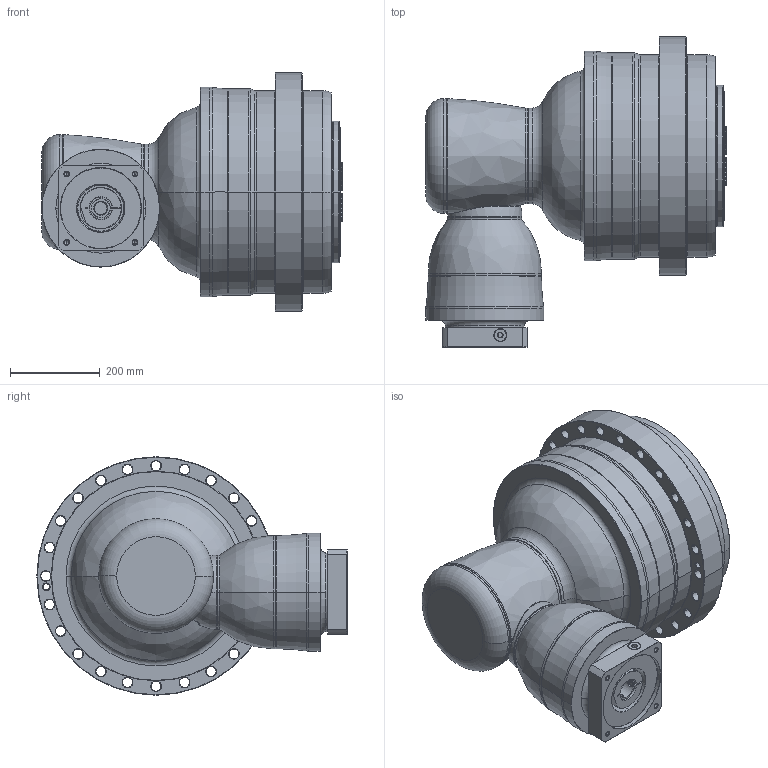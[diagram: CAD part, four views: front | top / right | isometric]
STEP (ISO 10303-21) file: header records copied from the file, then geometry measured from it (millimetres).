
FILE_DESCRIPTION((''),'2;1');
FILE_NAME('APCK450_4ST_42-P0409A00201_ASM','2018-05-17T',('d01226'),(''),'PRO/ENGINEER BY PARAMETRIC TECHNOLOGY CORPORATION, 2008410','PRO/ENGINEER BY PARAMETRIC TECHNOLOGY CORPORATION, 2008410','');
FILE_SCHEMA(('CONFIG_CONTROL_DESIGN'));
Length unit declared in the file: millimetre
Products named in the file (13): P1008700002; P1315700001; P1007701001; P1317701301; P0409A00201; P0503A00012; P0912603001; 21711422019; P1821200001; P0276201003; P03572B0103; P1222200001; APCK450_4ST_42-P0409A00201_ASM
Assembly tree (12 placements, depth 2):
  APCK450_4ST_42-P0409A00201_ASM
    P1008700002
    P1315700001
    P1007701001
    P1317701301
    P0409A00201
    P0503A00012
    P0912603001
    21711422019
    P1821200001
    P0276201003
    P03572B0103
    P1222200001
Bounding box: 667.6 x 690 x 530 mm (x, y, z)
Volume: 90330812.7 mm3; surface area: 3139137.4 mm2
Topology: 13 solids, 25 shells, 848 faces, 2043 edges, 1253 vertices
Faces by surface type: cone 270, cylinder 230, plane 164, torus 156, bspline 26, sphere 2
Entity records: 33924 total; most frequent: CARTESIAN_POINT 13667, DIRECTION 4526, ORIENTED_EDGE 4008, EDGE_CURVE 2029, AXIS2_PLACEMENT_3D 2011, VERTEX_POINT 1253, CIRCLE 1152, EDGE_LOOP 962
